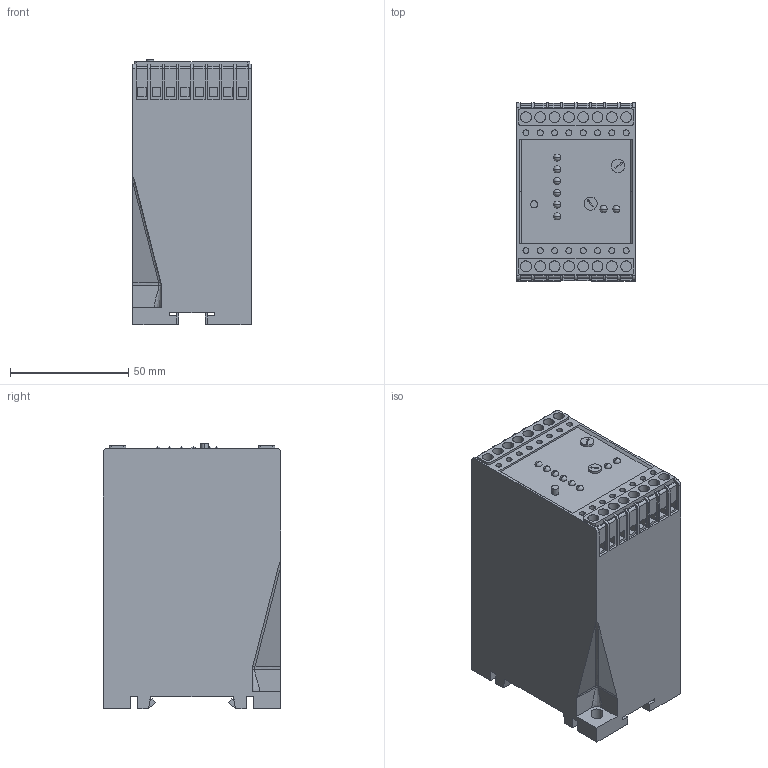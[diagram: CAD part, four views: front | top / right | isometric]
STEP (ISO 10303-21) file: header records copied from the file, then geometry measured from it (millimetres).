
FILE_DESCRIPTION (( 'STEP AP214' ), '1' );
FILE_NAME ('ESU-D2.STEP', '2024-04-11T07:42:49', ( '' ), ( '' ), 'SwSTEP 2.0', 'SolidWorks 2022', '' );
FILE_SCHEMA (( 'AUTOMOTIVE_DESIGN' ));
Length unit declared in the file: millimetre
Products named in the file (1): ESU-D2
Bounding box: 50 x 75 x 112 mm (x, y, z)
Volume: 385164.4 mm3; surface area: 42102.2 mm2
Topology: 1 solids, 1 shells, 492 faces, 1312 edges, 864 vertices
Faces by surface type: plane 342, cylinder 124, sphere 16, bspline 10
Entity records: 17529 total; most frequent: CARTESIAN_POINT 2827, ORIENTED_EDGE 2560, DIRECTION 2516, EDGE_CURVE 1280, VECTOR 962, LINE 962, VERTEX_POINT 848, AXIS2_PLACEMENT_3D 777
